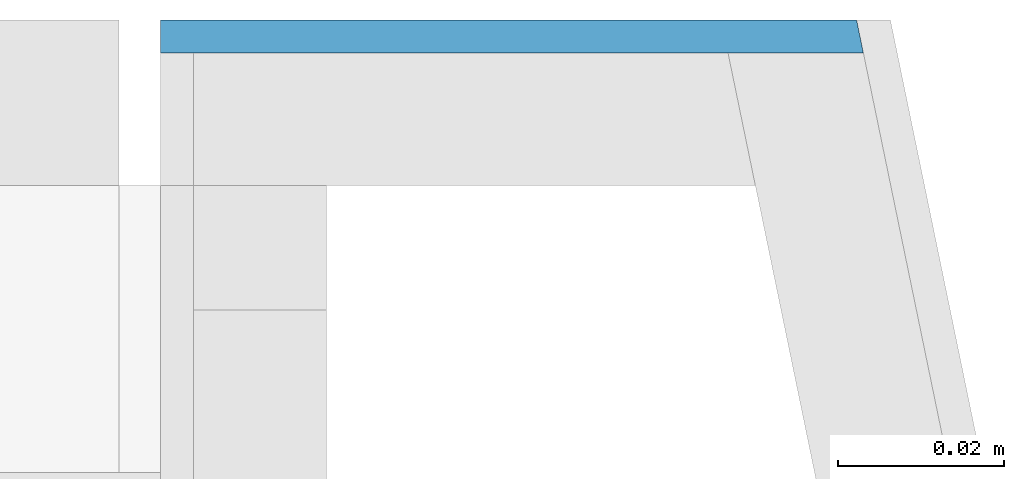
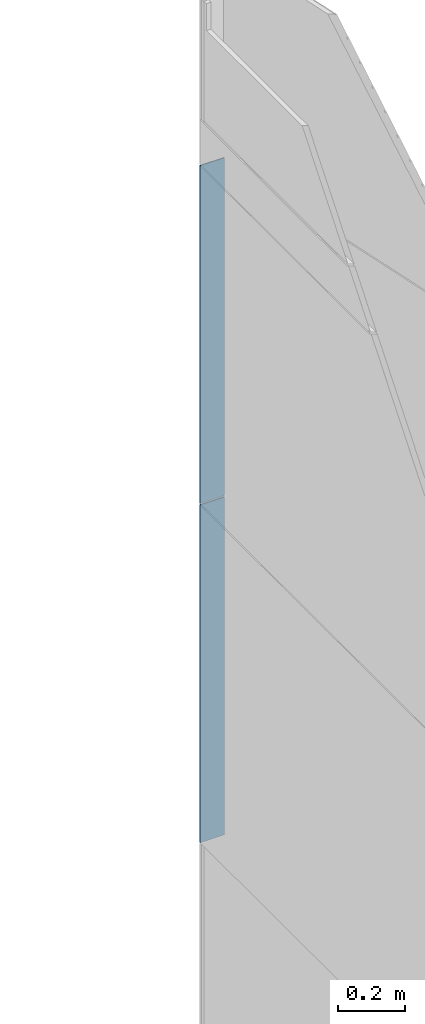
# One storey, part 26 of 125: 2 building element parts, 1 element without a shape of its own.
"""IFC2X3 building model written with IfcOpenShell, lengths in millimetres."""

from ifc_helpers import new_model, entity, si_unit, converted_unit, direction, frame, origin, place, context, subcontext, project, spatial, polyline, outline, extrude, material, type_object, element, aggregate, save


model = new_model("IFC2X3")

# Units and contexts
model_context = context("Model", 3, precision=0.01, world=origin(), true_north=direction((6.123233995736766e-17, 1.0)))
plan_context = context("Plan", 3, precision=0.01, world=origin(), true_north=direction((6.123233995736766e-17, 1.0)))
body_context = subcontext(model_context, "Body", "Model", "MODEL_VIEW")
ifc_project = project(units=[si_unit("LENGTHUNIT", "METRE", prefix="MILLI"), converted_unit("PLANEANGLEUNIT", "DEGREE", entity("IfcPlaneAngleMeasure", 0.017453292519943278), si_unit("PLANEANGLEUNIT", "RADIAN"), dimensions=[0, 0, 0, 0, 0, 0, 0]), si_unit("AREAUNIT", "SQUARE_METRE")], contexts=[model_context, plan_context])

# Site, building, storey
site_placement = place(None, origin())
site = spatial("IfcSite", under=ifc_project, at=site_placement, Name="Default", CompositionType="ELEMENT")
building_placement = place(site_placement, origin())
building = spatial("IfcBuilding", under=site, at=building_placement, CompositionType="ELEMENT")
storey_placement = place(building_placement, frame((0.0, 0.0, 3125.0)))
storey = spatial("IfcBuildingStorey", under=building, at=storey_placement, Name="2K", CompositionType="ELEMENT", Elevation=3125.0)

# Wall, building element parts
wall_type = type_object("IfcWallType", Name="Basic Wall:VS-komposiit", PredefinedType="STANDARD")
wall_placement = place(storey_placement, frame((8286.775755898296, 17442.0, -1010.0), z_axis=(0.0, 0.0, 1.0), x_axis=(-1.0, 0.0, 0.0)))
wall = element("IfcWall", 1, at=wall_placement, inside=storey, type_object=wall_type, Name="Basic Wall:VS-komposiit", ObjectType="Basic Wall:VS-komposiit")
ifc_material = material(Name="_K. Välisviimistlus. Alumiinium-komposiitplaat")
building_element_part_1_placement = place(wall_placement, origin())
building_element_part_1 = element("IfcBuildingElementPart", 2, at=building_element_part_1_placement, material=ifc_material, Name="Part", context=body_context, shape_type="SweptSolid", body=[
    extrude(outline(polyline([(-2.0, -42.20013519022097), (2.0, -42.20013519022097), (2.0, 42.61260185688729), (-2.0, 41.787668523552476), (-2.0, -42.20013519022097)])), frame((29.575620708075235, -8.0, 10437.499999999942), z_axis=(0.0, 0.0, 1.0), x_axis=(0.0, 1.0, 0.0)), (0.0, 0.0, 1.0), 1240.000000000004),
])
building_element_part_2_placement = place(wall_placement, origin())
building_element_part_2 = element("IfcBuildingElementPart", 3, at=building_element_part_2_placement, material=ifc_material, Name="Part", context=body_context, shape_type="SweptSolid", body=[
    extrude(outline(polyline([(-2.0, -42.20013519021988), (2.0, -42.20013519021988), (2.0, 42.61260185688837), (-2.0, 41.78766852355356), (-2.0, -42.20013519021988)])), frame((29.57562070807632, -8.0, 11682.499999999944), z_axis=(0.0, 0.0, 1.0), x_axis=(0.0, 1.0, 0.0)), (0.0, 0.0, 1.0), 1240.000000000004),
])
aggregate(wall, [building_element_part_1, building_element_part_2])

save(model, "model.ifc")
